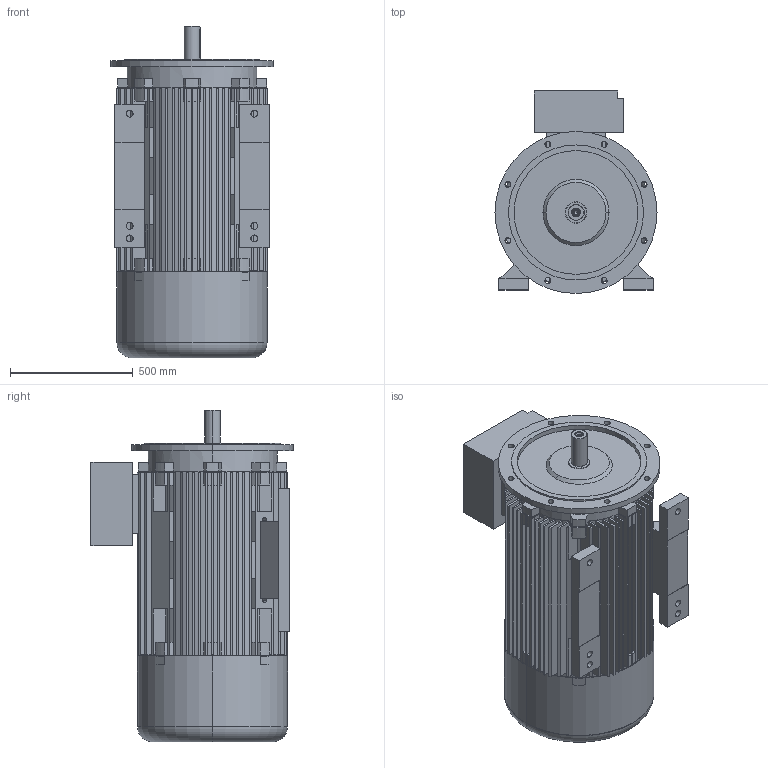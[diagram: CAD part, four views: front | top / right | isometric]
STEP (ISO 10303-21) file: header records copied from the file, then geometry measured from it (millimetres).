
FILE_DESCRIPTION (( 'STEP AP203' ), '1' );
FILE_NAME ('20.17517_C 7AT 315LX -2 B35 Exde STANDK.STEP', '2018-05-21T12:16:28', ( '' ), ( '' ), 'SwSTEP 2.0', 'SolidWorks 2017', '' );
FILE_SCHEMA (( 'CONFIG_CONTROL_DESIGN' ));
Length unit declared in the file: millimetre
Products named in the file (1): 20.17517_C 7AT 315LX -2 B35 Exde STANDK
Bounding box: 660 x 827 x 1350 mm (x, y, z)
Volume: 111795486.8 mm3; surface area: 12025186.2 mm2
Topology: 8 solids, 8 shells, 855 faces, 2298 edges, 1523 vertices
Faces by surface type: plane 681, cylinder 143, cone 18, bspline 9, torus 4
Entity records: 26948 total; most frequent: CARTESIAN_POINT 4984, ORIENTED_EDGE 4592, DIRECTION 4476, EDGE_CURVE 2296, LINE 1726, VECTOR 1726, VERTEX_POINT 1523, AXIS2_PLACEMENT_3D 1375
